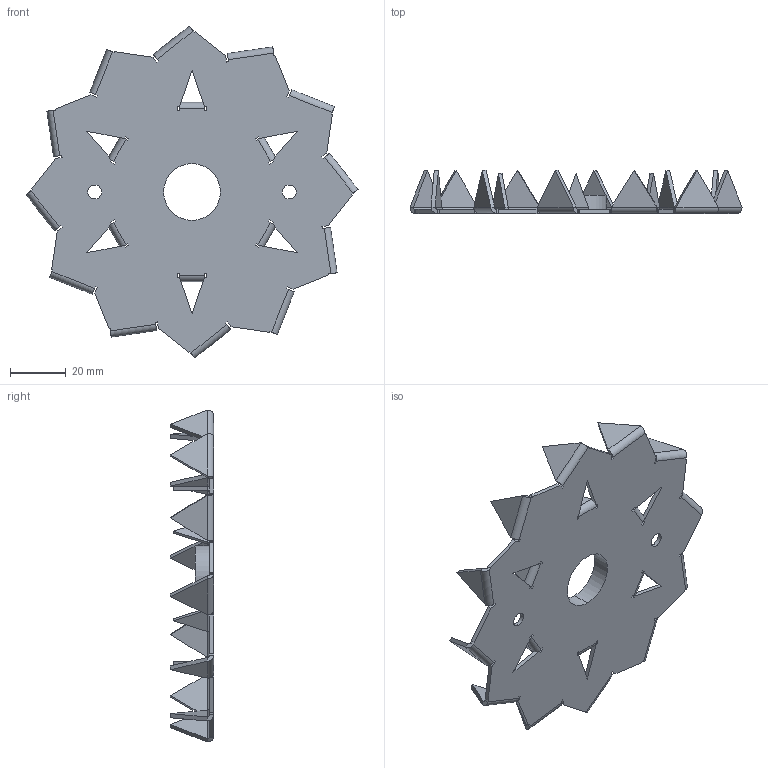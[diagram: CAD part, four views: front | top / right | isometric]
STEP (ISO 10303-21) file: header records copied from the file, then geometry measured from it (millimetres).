
FILE_DESCRIPTION (( 'STEP AP203' ), '1' );
FILE_NAME ('E117.STEP', '2020-05-22T11:18:57', ( '' ), ( '' ), 'SwSTEP 2.0', 'SolidWorks 2013', '' );
FILE_SCHEMA (( 'CONFIG_CONTROL_DESIGN' ));
Length unit declared in the file: millimetre
Products named in the file (1): E117
Bounding box: 119.36 x 15.5 x 119.36 mm (x, y, z)
Volume: 15817.6 mm3; surface area: 23141.3 mm2
Topology: 1 solids, 1 shells, 287 faces, 708 edges, 424 vertices
Faces by surface type: plane 243, cylinder 44
Entity records: 8311 total; most frequent: CARTESIAN_POINT 1420, ORIENTED_EDGE 1416, DIRECTION 1372, EDGE_CURVE 708, VECTOR 620, LINE 620, VERTEX_POINT 424, AXIS2_PLACEMENT_3D 376
